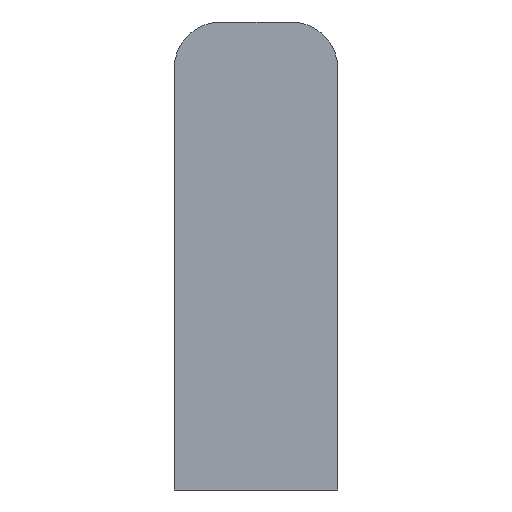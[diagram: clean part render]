
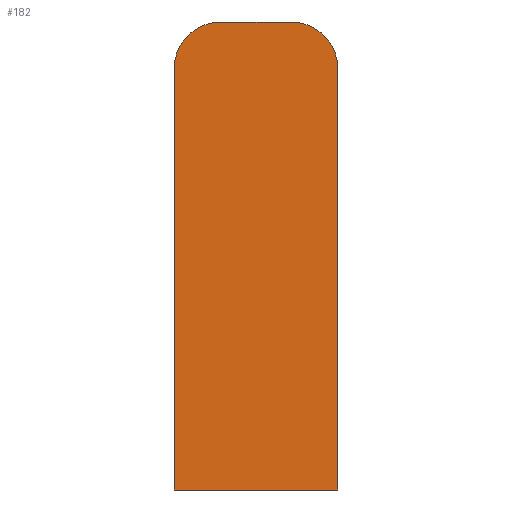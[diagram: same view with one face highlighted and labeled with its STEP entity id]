
A CAD part, front view. The second image highlights one B-rep face of the part: STEP entity #182.
In plain terms, the highlighted planar face has unit normal (0, -1, 0).
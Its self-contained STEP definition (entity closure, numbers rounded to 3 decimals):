
#18 = CARTESIAN_POINT ( 'NONE',  ( 0., 0., -1.5 ) ) ;
#20 = DIRECTION ( 'NONE',  ( 0., 1., 0. ) ) ;
#28 = DIRECTION ( 'NONE',  ( -1., 0., 0. ) ) ;
#29 = PLANE ( 'NONE',  #418 ) ;
#56 = CARTESIAN_POINT ( 'NONE',  ( 5.25, 0., -16.5 ) ) ;
#63 = CARTESIAN_POINT ( 'NONE',  ( 2.25, 0., 13.5 ) ) ;
#64 = CARTESIAN_POINT ( 'NONE',  ( -5.25, 0., 10.5 ) ) ;
#66 = CARTESIAN_POINT ( 'NONE',  ( -5.25, 0., -16.5 ) ) ;
#70 = CARTESIAN_POINT ( 'NONE',  ( -2.25, 0., 13.5 ) ) ;
#74 = CARTESIAN_POINT ( 'NONE',  ( 5.25, 0., 10.5 ) ) ;
#91 = CARTESIAN_POINT ( 'NONE',  ( 5.25, 0., -16.5 ) ) ;
#92 = DIRECTION ( 'NONE',  ( 1., 0., 0. ) ) ;
#109 = CARTESIAN_POINT ( 'NONE',  ( 2.25, 0., 10.5 ) ) ;
#118 = DIRECTION ( 'NONE',  ( 0., -1., 0. ) ) ;
#119 = DIRECTION ( 'NONE',  ( -1., 0., 0. ) ) ;
#129 = CARTESIAN_POINT ( 'NONE',  ( -2.25, 0., 10.5 ) ) ;
#130 = CARTESIAN_POINT ( 'NONE',  ( 2.25, 0., 13.5 ) ) ;
#131 = DIRECTION ( 'NONE',  ( 0., -1., 0. ) ) ;
#132 = DIRECTION ( 'NONE',  ( -1., 0., 0. ) ) ;
#135 = CARTESIAN_POINT ( 'NONE',  ( -5.25, 0., -16.5 ) ) ;
#136 = DIRECTION ( 'NONE',  ( 0., 0., -1. ) ) ;
#140 = DIRECTION ( 'NONE',  ( -1., 0., 0. ) ) ;
#157 = CARTESIAN_POINT ( 'NONE',  ( 5.25, 0., -16.5 ) ) ;
#158 = DIRECTION ( 'NONE',  ( 0., 0., 1. ) ) ;
#182 = ADVANCED_FACE ( 'NONE', ( #272 ), #29, .F. ) ;
#204 = ORIENTED_EDGE ( 'NONE', *, *, #443, .T. ) ;
#213 = LINE ( 'NONE', #157, #344 ) ;
#220 = EDGE_LOOP ( 'NONE', ( #229, #249, #254, #253, #204, #265 ) ) ;
#229 = ORIENTED_EDGE ( 'NONE', *, *, #463, .T. ) ;
#249 = ORIENTED_EDGE ( 'NONE', *, *, #429, .T. ) ;
#253 = ORIENTED_EDGE ( 'NONE', *, *, #439, .T. ) ;
#254 = ORIENTED_EDGE ( 'NONE', *, *, #448, .T. ) ;
#265 = ORIENTED_EDGE ( 'NONE', *, *, #404, .T. ) ;
#272 = FACE_OUTER_BOUND ( 'NONE', #220, .T. ) ;
#316 = CIRCLE ( 'NONE', #453, 3. ) ;
#318 = VECTOR ( 'NONE', #92, 1000. ) ;
#332 = LINE ( 'NONE', #135, #333 ) ;
#333 = VECTOR ( 'NONE', #136, 1000. ) ;
#334 = CIRCLE ( 'NONE', #464, 3. ) ;
#335 = LINE ( 'NONE', #130, #339 ) ;
#339 = VECTOR ( 'NONE', #140, 1000. ) ;
#344 = VECTOR ( 'NONE', #158, 1000. ) ;
#350 = LINE ( 'NONE', #91, #318 ) ;
#373 = VERTEX_POINT ( 'NONE', #56 ) ;
#378 = VERTEX_POINT ( 'NONE', #63 ) ;
#379 = VERTEX_POINT ( 'NONE', #64 ) ;
#382 = VERTEX_POINT ( 'NONE', #66 ) ;
#388 = VERTEX_POINT ( 'NONE', #70 ) ;
#394 = VERTEX_POINT ( 'NONE', #74 ) ;
#404 = EDGE_CURVE ( 'NONE', #382, #373, #350, .T. ) ;
#418 = AXIS2_PLACEMENT_3D ( 'NONE', #18, #20, #28 ) ;
#429 = EDGE_CURVE ( 'NONE', #394, #378, #316, .T. ) ;
#439 = EDGE_CURVE ( 'NONE', #388, #379, #334, .T. ) ;
#443 = EDGE_CURVE ( 'NONE', #379, #382, #332, .T. ) ;
#448 = EDGE_CURVE ( 'NONE', #378, #388, #335, .T. ) ;
#453 = AXIS2_PLACEMENT_3D ( 'NONE', #109, #118, #119 ) ;
#463 = EDGE_CURVE ( 'NONE', #373, #394, #213, .T. ) ;
#464 = AXIS2_PLACEMENT_3D ( 'NONE', #129, #131, #132 ) ;
